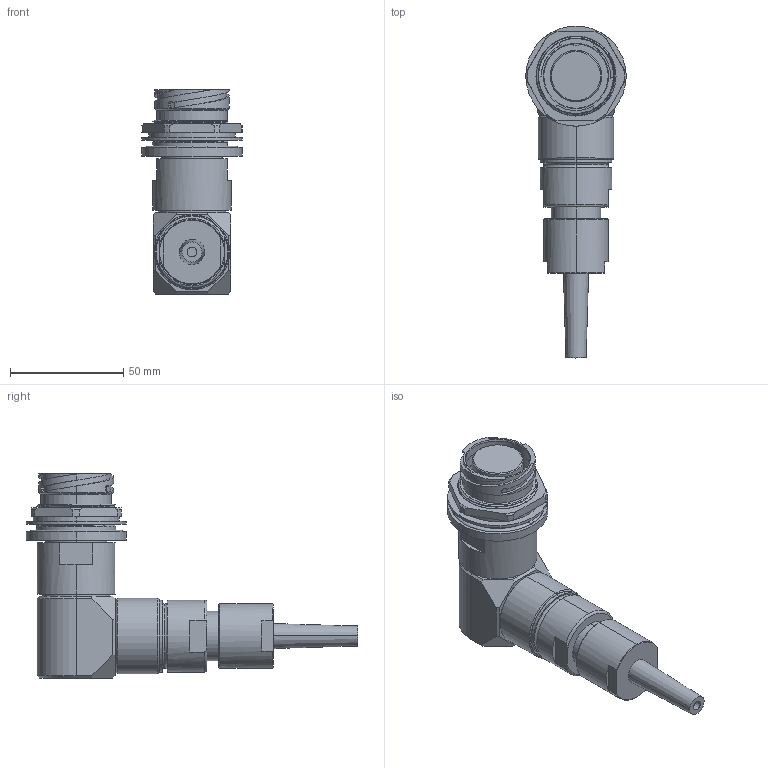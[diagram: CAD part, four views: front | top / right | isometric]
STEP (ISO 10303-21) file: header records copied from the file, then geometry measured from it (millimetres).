
FILE_DESCRIPTION (( 'STEP AP214' ), '1' );
FILE_NAME ('QLINK90-RJBX-19XX-SXXX-RA.STEP', '2025-12-17T15:33:36', ( '' ), ( '' ), 'SwSTEP 2.0', 'SolidWorks 2024', '' );
FILE_SCHEMA (( 'AUTOMOTIVE_DESIGN' ));
Length unit declared in the file: millimetre
Products named in the file (1): QLINK90-RJBX-19XX-SXXX-RA
Bounding box: 44.2 x 146.36 x 90.04 mm (x, y, z)
Volume: 137281 mm3; surface area: 33081.1 mm2
Topology: 2 solids, 4 shells, 312 faces, 792 edges, 507 vertices
Faces by surface type: cylinder 87, plane 81, cone 65, bspline 56, torus 23
Entity records: 24049 total; most frequent: CARTESIAN_POINT 17120, ORIENTED_EDGE 1584, DIRECTION 1295, EDGE_CURVE 792, AXIS2_PLACEMENT_3D 525, VERTEX_POINT 507, EDGE_LOOP 341, FACE_OUTER_BOUND 312
